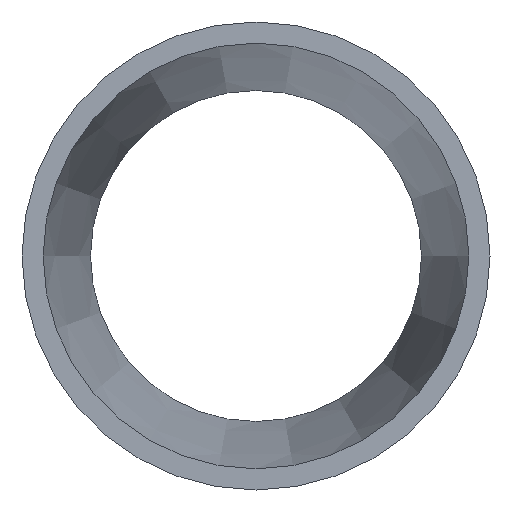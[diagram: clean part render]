
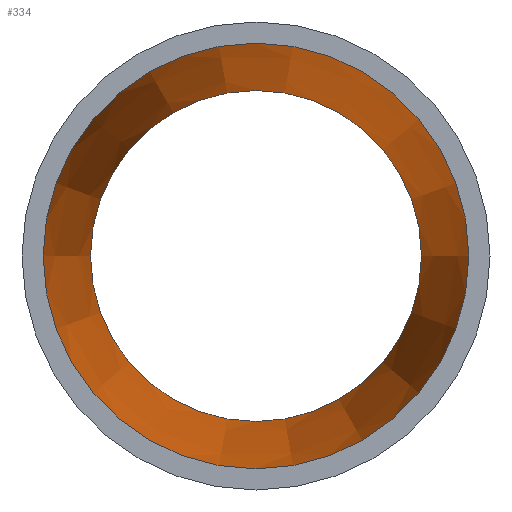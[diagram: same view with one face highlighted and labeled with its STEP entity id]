
A CAD part, left-side view. The second image highlights one B-rep face of the part: STEP entity #334.
In plain terms, the highlighted conical face has half-angle 5.528 degrees and reference radius 24.384 mm.
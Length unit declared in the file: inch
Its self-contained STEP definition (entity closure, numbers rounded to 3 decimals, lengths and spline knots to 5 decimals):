
#66=FACE_OUTER_BOUND('',#82,.T.);
#82=EDGE_LOOP('',(#235,#236,#237,#238,#239,#240));
#104=LINE('',#580,#114);
#114=VECTOR('',#447,0.96);
#127=CIRCLE('',#375,0.84);
#128=CIRCLE('',#376,1.08);
#129=CIRCLE('',#377,1.08);
#130=CIRCLE('',#378,0.84);
#159=VERTEX_POINT('',#576);
#160=VERTEX_POINT('',#577);
#161=VERTEX_POINT('',#579);
#162=VERTEX_POINT('',#581);
#192=EDGE_CURVE('',#159,#160,#127,.T.);
#193=EDGE_CURVE('',#160,#161,#104,.T.);
#194=EDGE_CURVE('',#162,#161,#128,.T.);
#195=EDGE_CURVE('',#161,#162,#129,.T.);
#196=EDGE_CURVE('',#160,#159,#130,.T.);
#235=ORIENTED_EDGE('',*,*,#192,.T.);
#236=ORIENTED_EDGE('',*,*,#193,.T.);
#237=ORIENTED_EDGE('',*,*,#194,.F.);
#238=ORIENTED_EDGE('',*,*,#195,.F.);
#239=ORIENTED_EDGE('',*,*,#193,.F.);
#240=ORIENTED_EDGE('',*,*,#196,.T.);
#314=CONICAL_SURFACE('',#374,0.96,0.096);
#334=ADVANCED_FACE('',(#66),#314,.F.);
#374=AXIS2_PLACEMENT_3D('',#575,#443,#444);
#375=AXIS2_PLACEMENT_3D('',#578,#445,#446);
#376=AXIS2_PLACEMENT_3D('',#582,#448,#449);
#377=AXIS2_PLACEMENT_3D('',#583,#450,#451);
#378=AXIS2_PLACEMENT_3D('',#584,#452,#453);
#443=DIRECTION('center_axis',(-1.,0.,0.));
#444=DIRECTION('ref_axis',(0.,1.,0.));
#445=DIRECTION('center_axis',(1.,0.,0.));
#446=DIRECTION('ref_axis',(0.,1.,0.));
#447=DIRECTION('',(-0.995,-0.096,0.));
#448=DIRECTION('center_axis',(1.,0.,0.));
#449=DIRECTION('ref_axis',(0.,1.,0.));
#450=DIRECTION('center_axis',(1.,0.,0.));
#451=DIRECTION('ref_axis',(0.,1.,0.));
#452=DIRECTION('center_axis',(1.,0.,0.));
#453=DIRECTION('ref_axis',(0.,1.,0.));
#575=CARTESIAN_POINT('Origin',(2.5,0.,0.));
#576=CARTESIAN_POINT('',(3.74,0.84,0.));
#577=CARTESIAN_POINT('',(3.74,-0.84,0.));
#578=CARTESIAN_POINT('Origin',(3.74,0.,0.));
#579=CARTESIAN_POINT('',(1.26,-1.08,0.));
#580=CARTESIAN_POINT('',(2.5,-0.96,0.));
#581=CARTESIAN_POINT('',(1.26,1.08,0.));
#582=CARTESIAN_POINT('Origin',(1.26,0.,0.));
#583=CARTESIAN_POINT('Origin',(1.26,0.,0.));
#584=CARTESIAN_POINT('Origin',(3.74,0.,0.));
